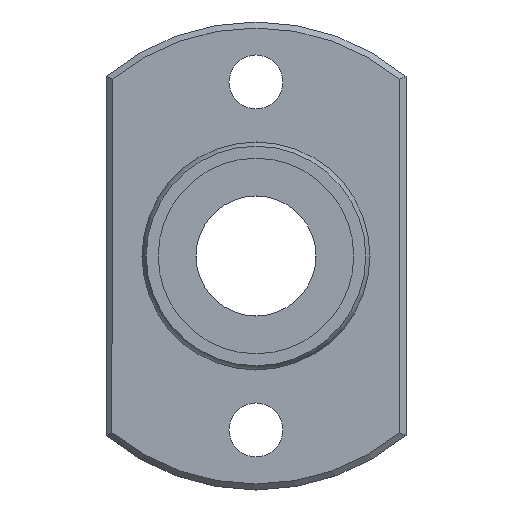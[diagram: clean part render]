
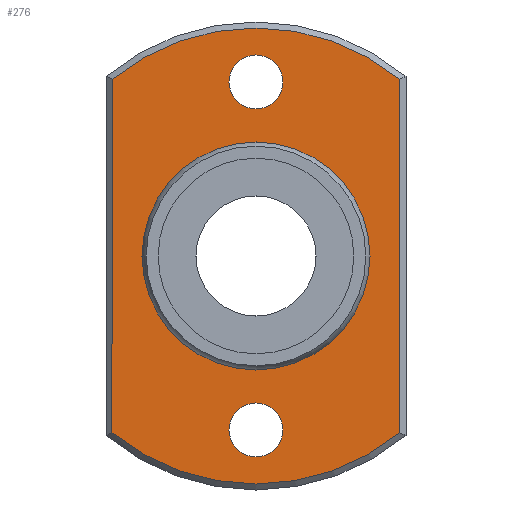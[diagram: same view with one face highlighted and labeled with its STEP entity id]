
A CAD part, left-side view. The second image highlights one B-rep face of the part: STEP entity #276.
In plain terms, the highlighted planar face has unit normal (-1, 0, 0).
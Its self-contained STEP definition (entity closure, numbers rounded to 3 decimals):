
#59=CARTESIAN_POINT('',(6.,12.,-14.731));
#60=VERTEX_POINT('',#59);
#68=CARTESIAN_POINT('',(6.,12.,14.731));
#69=VERTEX_POINT('',#68);
#70=CARTESIAN_POINT('',(6.,12.,-14.731));
#71=DIRECTION('',(0.0,0.0,1.0));
#72=VECTOR('',#71,29.462);
#73=LINE('',#70,#72);
#74=EDGE_CURVE('',#60,#69,#73,.T.);
#101=CARTESIAN_POINT('',(6.,-12.,14.731));
#102=VERTEX_POINT('',#101);
#103=CARTESIAN_POINT('',(6.,0.0,0.0));
#104=DIRECTION('',(1.0,0.0,0.0));
#105=DIRECTION('',(0.0,0.0,1.0));
#106=AXIS2_PLACEMENT_3D('',#103,#104,#105);
#107=CIRCLE('',#106,19.0);
#108=EDGE_CURVE('',#69,#102,#107,.T.);
#134=CARTESIAN_POINT('',(6.,-12.,-14.731));
#135=VERTEX_POINT('',#134);
#136=CARTESIAN_POINT('',(6.,-12.,14.731));
#137=DIRECTION('',(0.0,0.0,-1.0));
#138=VECTOR('',#137,29.462);
#139=LINE('',#136,#138);
#140=EDGE_CURVE('',#102,#135,#139,.T.);
#165=CARTESIAN_POINT('',(6.,0.0,0.0));
#166=DIRECTION('',(1.0,0.0,0.0));
#167=DIRECTION('',(0.0,0.0,-1.0));
#168=AXIS2_PLACEMENT_3D('',#165,#166,#167);
#169=CIRCLE('',#168,19.0);
#170=EDGE_CURVE('',#135,#60,#169,.T.);
#232=CARTESIAN_POINT('',(6.,0.0,14.393));
#233=DIRECTION('',(-1.0,0.0,0.0));
#234=DIRECTION('',(0.0,0.0,1.0));
#235=AXIS2_PLACEMENT_3D('',#232,#233,#234);
#236=PLANE('',#235);
#237=ORIENTED_EDGE('',*,*,#74,.F.);
#238=ORIENTED_EDGE('',*,*,#170,.F.);
#239=ORIENTED_EDGE('',*,*,#140,.F.);
#240=ORIENTED_EDGE('',*,*,#108,.F.);
#241=EDGE_LOOP('',(#237,#238,#239,#240));
#242=FACE_OUTER_BOUND('',#241,.T.);
#243=CARTESIAN_POINT('',(6.,0.0,9.286));
#244=VERTEX_POINT('',#243);
#245=CARTESIAN_POINT('',(6.,0.0,0.0));
#246=DIRECTION('',(-1.0,0.0,0.0));
#247=DIRECTION('',(0.0,0.0,1.0));
#248=AXIS2_PLACEMENT_3D('',#245,#246,#247);
#249=CIRCLE('',#248,9.286);
#250=EDGE_CURVE('',#244,#244,#249,.T.);
#251=ORIENTED_EDGE('',*,*,#250,.F.);
#252=EDGE_LOOP('',(#251));
#253=FACE_BOUND('',#252,.T.);
#254=CARTESIAN_POINT('',(6.,-2.25,-14.5));
#255=VERTEX_POINT('',#254);
#256=CARTESIAN_POINT('',(6.,0.,-14.5));
#257=DIRECTION('',(1.0,0.0,0.0));
#258=DIRECTION('',(0.0,1.0,0.0));
#259=AXIS2_PLACEMENT_3D('',#256,#257,#258);
#260=CIRCLE('',#259,2.25);
#261=EDGE_CURVE('',#255,#255,#260,.T.);
#262=ORIENTED_EDGE('',*,*,#261,.T.);
#263=EDGE_LOOP('',(#262));
#264=FACE_BOUND('',#263,.T.);
#265=CARTESIAN_POINT('',(6.,-2.25,14.5));
#266=VERTEX_POINT('',#265);
#267=CARTESIAN_POINT('',(6.,0.,14.5));
#268=DIRECTION('',(1.0,0.0,0.0));
#269=DIRECTION('',(0.0,1.0,0.0));
#270=AXIS2_PLACEMENT_3D('',#267,#268,#269);
#271=CIRCLE('',#270,2.25);
#272=EDGE_CURVE('',#266,#266,#271,.T.);
#273=ORIENTED_EDGE('',*,*,#272,.T.);
#274=EDGE_LOOP('',(#273));
#275=FACE_BOUND('',#274,.T.);
#276=ADVANCED_FACE('',(#242,#253,#264,#275),#236,.T.);
